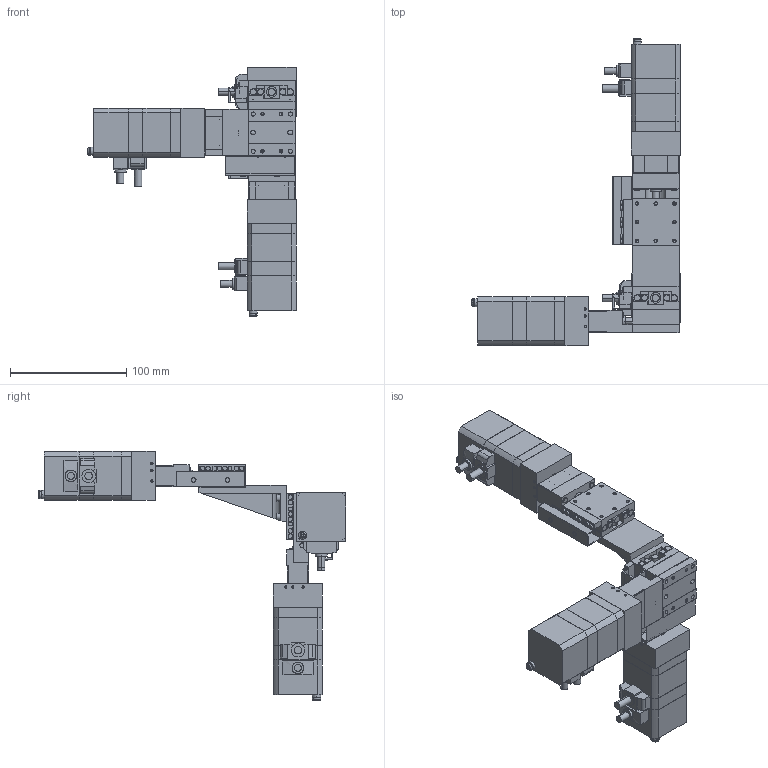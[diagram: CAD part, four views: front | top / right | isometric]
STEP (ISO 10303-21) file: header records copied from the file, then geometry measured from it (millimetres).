
FILE_DESCRIPTION(('STEP AP203'),'1');
FILE_NAME('C:/3D-Trans/3D_PMZG413T-L□-MA+240129.step','2024-03-14T08:10:29',(' '),(' '),'Spatial InterOp 3D',' ',' ');
FILE_SCHEMA(('CONFIG_CONTROL_DESIGN'));
Length unit declared in the file: millimetre
Products named in the file (19): 1; 2; 3; 4; 5; 6; 7; 8; 9; 10; 11; 12; 13; 14; 15; 16; 17; 18; 19
Bounding box: 179 x 264 x 214 mm (x, y, z)
Volume: 679776.4 mm3; surface area: 172958.8 mm2
Topology: 19 solids, 19 shells, 1885 faces, 4723 edges, 2968 vertices
Faces by surface type: plane 1004, cylinder 633, cone 236, torus 12
Entity records: 56721 total; most frequent: DIRECTION 10045, CARTESIAN_POINT 9703, ORIENTED_EDGE 9278, EDGE_CURVE 4639, AXIS2_PLACEMENT_3D 3520, LINE 3005, VECTOR 3005, VERTEX_POINT 2968
